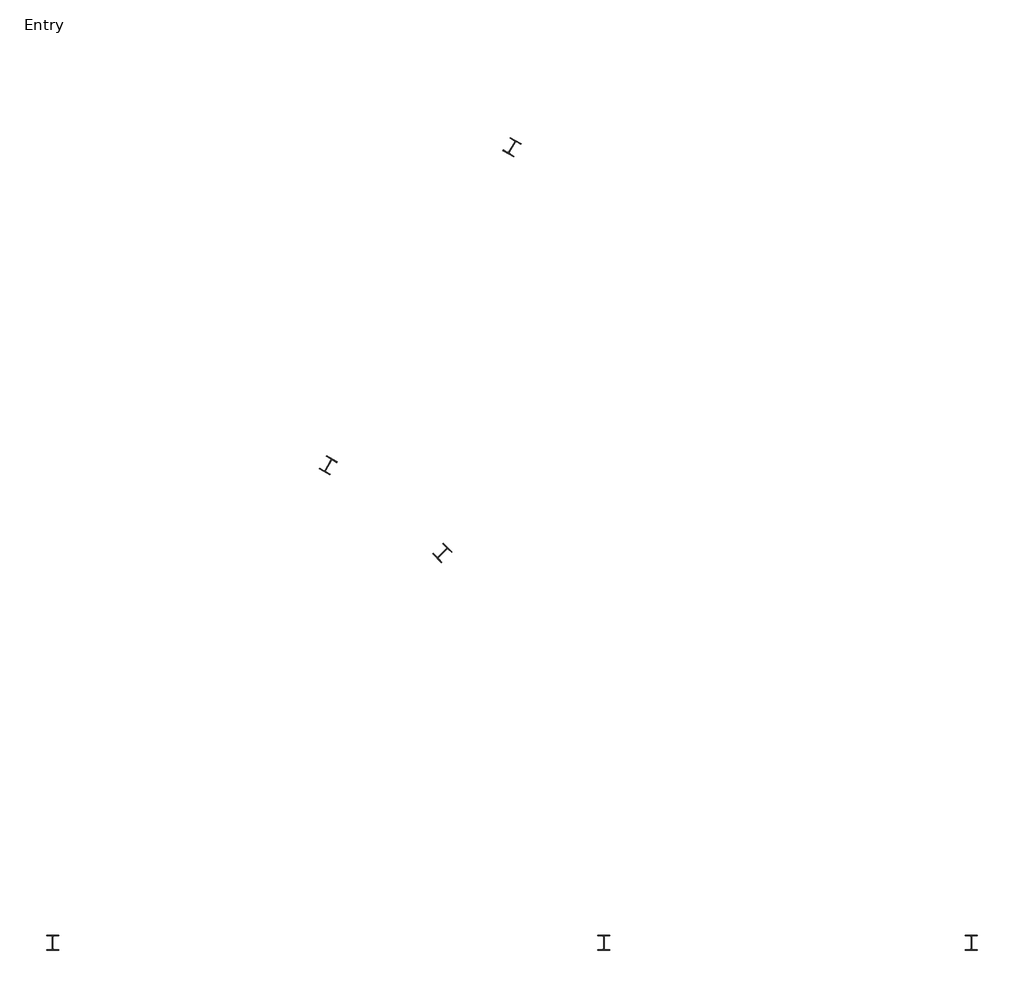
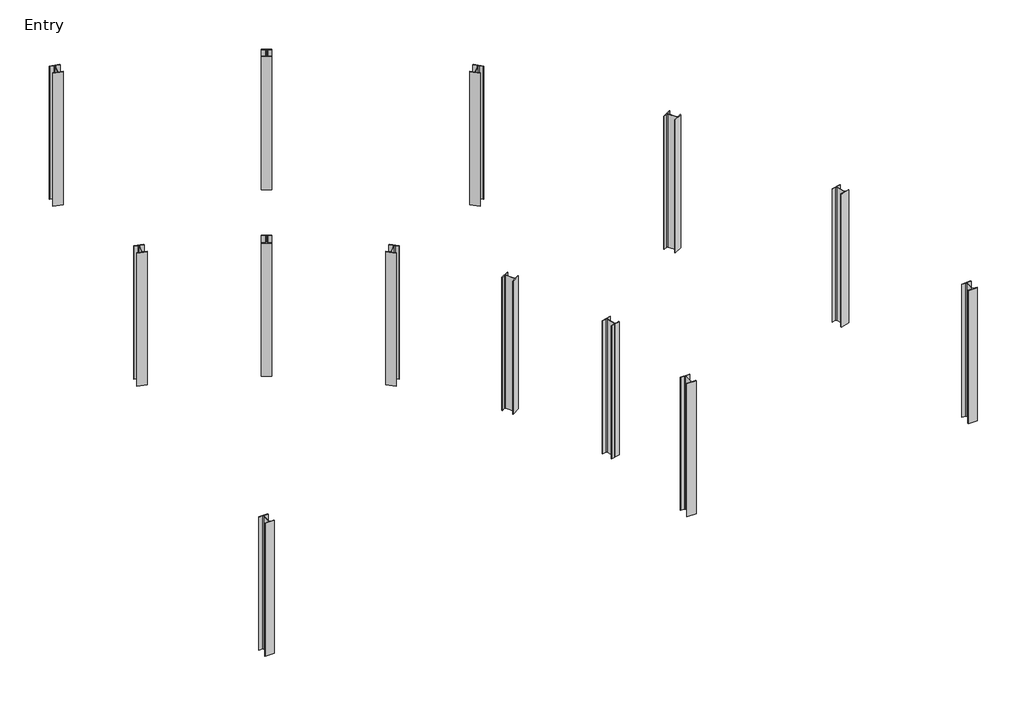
# One storey: 13 columns.
"""IFC4 building model written with IfcOpenShell, lengths in millimetres."""

from ifc_helpers import new_model, si_unit, origin, place, context, project, spatial, transform, mapped, element, save
from components import w_wide_flange_column_w10x33_7f7bc32a

model = new_model("IFC4")

# Units and contexts
model_context = context("Model", 3, world=origin())
ifc_project = project(units=[si_unit("LENGTHUNIT", "METRE", prefix="MILLI")], contexts=[model_context])

# Site, building, storey
site = spatial("IfcSite", under=ifc_project)
building = spatial("IfcBuilding", under=site)
storey = spatial("IfcBuildingStorey", under=building, Name="Entry", Elevation=0.0)

# Columns
placement = place(None, origin())
w_wide_flange_column_w10x33_shape = w_wide_flange_column_w10x33_7f7bc32a(model_context)
element("IfcColumn", 1, ObjectType="W-Wide Flange-Column : W10X33", at=placement, inside=storey, context=model_context, shape_type="MappedRepresentation", body=[
    mapped(w_wide_flange_column_w10x33_shape, transform((-28655.0783408, -10737.7036449, 0.0), x_axis=(1.0, 0.0, 0.0), y_axis=(0.0, 1.0, 0.0), z_axis=(0.0, 0.0, 1.0))),
])
element("IfcColumn", 2, ObjectType="W-Wide Flange-Column : W10X33", at=placement, inside=storey, context=model_context, shape_type="MappedRepresentation", body=[
    mapped(w_wide_flange_column_w10x33_shape, transform((-19511.0783408, -10737.7036449, 0.0), x_axis=(1.0, 0.0, 0.0), y_axis=(0.0, 1.0, 0.0), z_axis=(0.0, 0.0, 1.0))),
])
element("IfcColumn", 3, ObjectType="W-Wide Flange-Column : W10X33", at=placement, inside=storey, context=model_context, shape_type="MappedRepresentation", body=[
    mapped(w_wide_flange_column_w10x33_shape, transform((-13415.0783408, -10737.7036449, 0.0), x_axis=(1.0, 0.0, 0.0), y_axis=(0.0, 1.0, 0.0), z_axis=(0.0, 0.0, 1.0))),
])
element("IfcColumn", 4, ObjectType="W-Wide Flange-Column : W10X33", at=placement, inside=storey, context=model_context, shape_type="MappedRepresentation", body=[
    mapped(w_wide_flange_column_w10x33_shape, transform((-19822.6525852, -8371.0622965, 0.0), x_axis=(0.9659258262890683, 0.25881904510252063, 0.0), y_axis=(-0.25881904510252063, 0.9659258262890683, 0.0), z_axis=(0.0, 0.0, 1.0))),
])
element("IfcColumn", 5, ObjectType="W-Wide Flange-Column : W10X33", at=placement, inside=storey, context=model_context, shape_type="MappedRepresentation", body=[
    mapped(w_wide_flange_column_w10x33_shape, transform((-13934.3687482, -6793.3013975, 0.0), x_axis=(0.9659258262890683, 0.25881904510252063, 0.0), y_axis=(-0.25881904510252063, 0.9659258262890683, 0.0), z_axis=(0.0, 0.0, 1.0))),
])
element("IfcColumn", 6, ObjectType="W-Wide Flange-Column : W10X33", at=placement, inside=storey, context=model_context, shape_type="MappedRepresentation", body=[
    mapped(w_wide_flange_column_w10x33_shape, transform((-20736.1420486, -6165.7036449, 0.0), x_axis=(0.866025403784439, 0.49999999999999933, 0.0), y_axis=(-0.49999999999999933, 0.866025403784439, 0.0), z_axis=(0.0, 0.0, 1.0))),
])
element("IfcColumn", 7, ObjectType="W-Wide Flange-Column : W10X33", at=placement, inside=storey, context=model_context, shape_type="MappedRepresentation", body=[
    mapped(w_wide_flange_column_w10x33_shape, transform((-15456.8511871, -3117.7036449, 0.0), x_axis=(0.866025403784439, 0.49999999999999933, 0.0), y_axis=(-0.49999999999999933, 0.866025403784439, 0.0), z_axis=(0.0, 0.0, 1.0))),
])
element("IfcColumn", 8, ObjectType="W-Wide Flange-Column : W10X33", at=placement, inside=storey, context=model_context, shape_type="MappedRepresentation", body=[
    mapped(w_wide_flange_column_w10x33_shape, transform((-22189.2939336, -4271.9192377, 0.0), x_axis=(0.7071067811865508, -0.7071067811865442, 0.0), y_axis=(0.7071067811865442, 0.7071067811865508, 0.0), z_axis=(0.0, 0.0, 1.0))),
])
element("IfcColumn", 9, ObjectType="W-Wide Flange-Column : W10X33", at=placement, inside=storey, context=model_context, shape_type="MappedRepresentation", body=[
    mapped(w_wide_flange_column_w10x33_shape, transform((-17878.7709955, 38.6037004, 0.0), x_axis=(0.7071067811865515, -0.7071067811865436, 0.0), y_axis=(0.7071067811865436, 0.7071067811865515, 0.0), z_axis=(0.0, 0.0, 1.0))),
])
element("IfcColumn", 10, ObjectType="W-Wide Flange-Column : W10X33", at=placement, inside=storey, context=model_context, shape_type="MappedRepresentation", body=[
    mapped(w_wide_flange_column_w10x33_shape, transform((-24083.0783408, -2818.7673527, 0.0), x_axis=(0.8660254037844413, -0.49999999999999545, 0.0), y_axis=(0.49999999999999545, 0.8660254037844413, 0.0), z_axis=(0.0, 0.0, 1.0))),
])
element("IfcColumn", 11, ObjectType="W-Wide Flange-Column : W10X33", at=placement, inside=storey, context=model_context, shape_type="MappedRepresentation", body=[
    mapped(w_wide_flange_column_w10x33_shape, transform((-21035.0783408, 2460.5235088, 0.0), x_axis=(0.8660254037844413, -0.49999999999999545, 0.0), y_axis=(0.49999999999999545, 0.8660254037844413, 0.0), z_axis=(0.0, 0.0, 1.0))),
])
element("IfcColumn", 12, ObjectType="W-Wide Flange-Column : W10X33", at=placement, inside=storey, context=model_context, shape_type="MappedRepresentation", body=[
    mapped(w_wide_flange_column_w10x33_shape, transform((-26288.4369924, -1905.2778893, 0.0), x_axis=(0.9659258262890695, -0.258819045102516, 0.0), y_axis=(0.258819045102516, 0.9659258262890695, 0.0), z_axis=(0.0, 0.0, 1.0))),
])
element("IfcColumn", 13, ObjectType="W-Wide Flange-Column : W10X33", at=placement, inside=storey, context=model_context, shape_type="MappedRepresentation", body=[
    mapped(w_wide_flange_column_w10x33_shape, transform((-24710.6760935, 3983.0059477, 0.0), x_axis=(0.9659258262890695, -0.258819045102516, 0.0), y_axis=(0.258819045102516, 0.9659258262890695, 0.0), z_axis=(0.0, 0.0, 1.0))),
])

save(model, "model.ifc")
